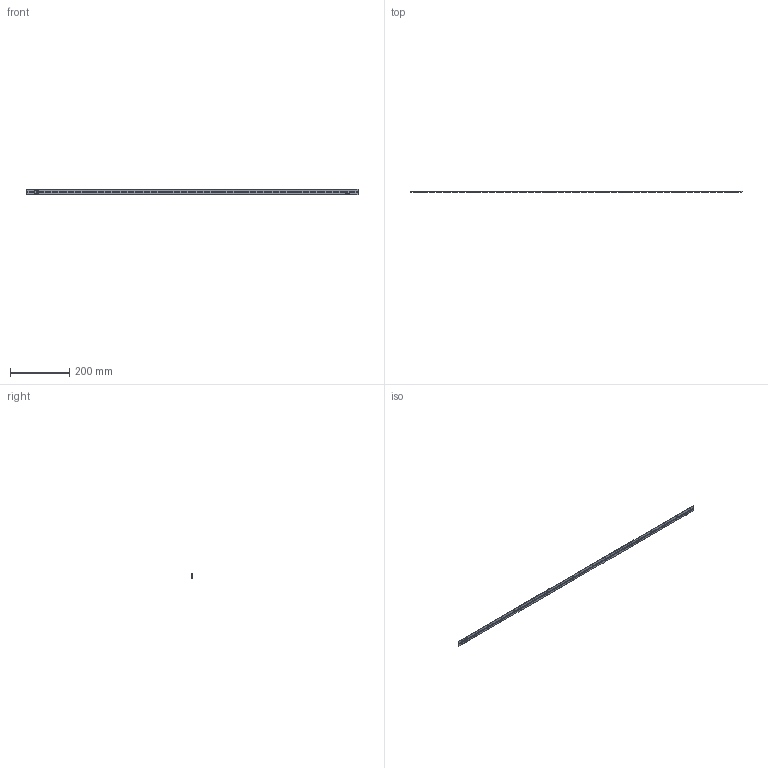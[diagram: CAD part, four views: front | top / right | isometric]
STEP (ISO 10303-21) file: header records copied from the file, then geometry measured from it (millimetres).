
FILE_DESCRIPTION(/* description */ ('Unknown'),/* implementation_level */ '2;1');
FILE_NAME(/* name */ '6010-511-00021 sh-000 2019-04-10',/* time_stamp */ '2019-04-10T11:16:28+02:00',/* author */ ('Unknown'),/* organization */ ('Unknown'),/* preprocessor_version */ 'ST-DEVELOPER v16.7',/* originating_system */ 'DEX',/* authorisation */ $);
FILE_SCHEMA (('AUTOMOTIVE_DESIGN {1 0 10303 214 3 1 1}'));
Products named in the file (1): 6010-511-00021 sh-000 2019-04-10
Bounding box: 1120 x 5 x 20 mm (x, y, z)
Volume: 36730.4 mm3; surface area: 49938.4 mm2
Topology: 1 solids, 1 shells, 3136 faces, 8223 edges, 5380 vertices
Faces by surface type: plane 2688, cylinder 217, bspline 156, cone 36, sphere 24, torus 15
Entity records: 120831 total; most frequent: CARTESIAN_POINT 23067, ORIENTED_EDGE 16374, DIRECTION 13980, EDGE_CURVE 8187, LINE 7252, VECTOR 7252, VERTEX_POINT 5371, EDGE_LOOP 3454
